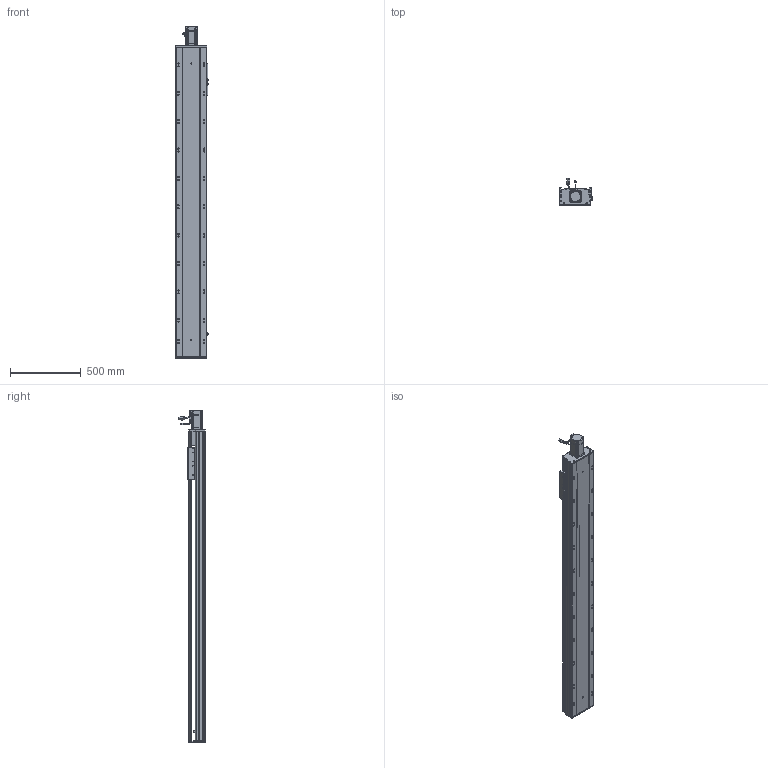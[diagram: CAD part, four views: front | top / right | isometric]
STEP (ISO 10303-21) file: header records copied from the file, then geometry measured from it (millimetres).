
FILE_DESCRIPTION (( 'STEP AP203' ), '1' );
FILE_NAME ('RY220-L2525-800-MK-邧嶺.SLDASM_1750.step', '2022-08-06T08:58:17', ( '' ), ( '' ), 'SwSTEP 2.0', 'SolidWorks 2016', '' );
FILE_SCHEMA (( 'CONFIG_CONTROL_DESIGN' ));
Length unit declared in the file: millimetre
Products named in the file (12): RY220电机支撑座FK20（PCD90M6）; RY220半封闭25-32螺母铝滑块; 覜茼ん672; 滅袉蝶18-12; RY220-800-奻裔啣-MK_1750; RY220-俋离672覜茼んえ; 滅袉蝶18-15; RY220-L2525-800-MK-邧嶺.SLDASM_1750; RY220綴裔啣; RY220ヶ裔啣; RY220菁釱MK-800-邧嶺_1750; 怢湛750W_ECMA-CX0807ES
Assembly tree (15 placements, depth 2):
  RY220-L2525-800-MK-邧嶺.SLDASM_1750
    RY220菁釱MK-800-邧嶺_1750
    RY220电机支撑座FK20（PCD90M6）
    怢湛750W_ECMA-CX0807ES
    滅袉蝶18-12  x2
    RY220ヶ裔啣
    RY220綴裔啣
    覜茼ん672  x3
    RY220半封闭25-32螺母铝滑块
    RY220-800-奻裔啣-MK_1750
    RY220-俋离672覜茼んえ
    滅袉蝶18-15  x2
Bounding box: 238.7 x 187.27 x 2340.3 mm (x, y, z)
Volume: 17403103 mm3; surface area: 5077606.3 mm2
Topology: 16 solids, 16 shells, 2386 faces, 6622 edges, 4154 vertices
Faces by surface type: cylinder 1108, plane 915, cone 301, bspline 36, sphere 16, torus 10
Entity records: 78600 total; most frequent: CARTESIAN_POINT 22193, ORIENTED_EDGE 11680, DIRECTION 11167, EDGE_CURVE 5840, AXIS2_PLACEMENT_3D 3971, VERTEX_POINT 3810, LINE 3225, VECTOR 3225
